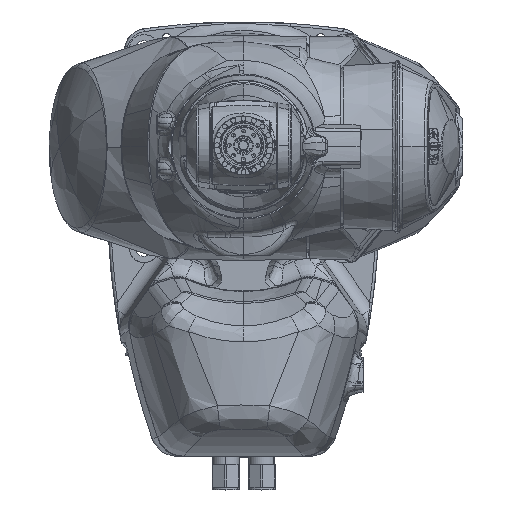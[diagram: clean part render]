
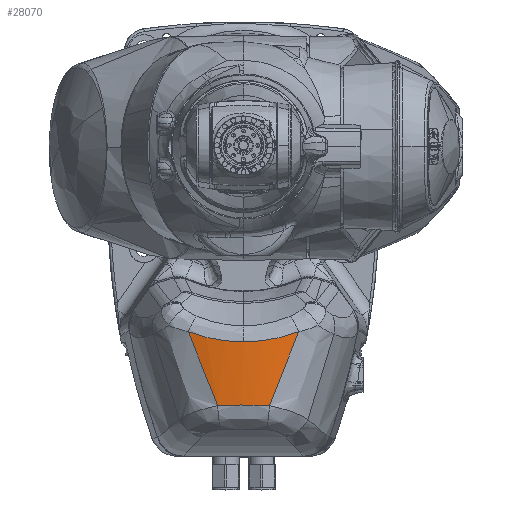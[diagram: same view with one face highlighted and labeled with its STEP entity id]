
A CAD part, top view. The second image highlights one B-rep face of the part: STEP entity #28070.
In plain terms, the highlighted cylindrical face has radius 250 mm (diameter 500 mm), a partial arc.
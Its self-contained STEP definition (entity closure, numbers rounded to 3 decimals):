
#24921=CARTESIAN_POINT('Vertex',(-28.589,-284.431,333.36)) ;
#24925=CARTESIAN_POINT('Control Point',(-60.947,-202.716,327.457)) ;
#24926=CARTESIAN_POINT('Control Point',(-55.703,-219.424,328.775)) ;
#24927=CARTESIAN_POINT('Control Point',(-49.779,-235.963,330.113)) ;
#24928=CARTESIAN_POINT('Control Point',(-43.238,-252.316,331.382)) ;
#24929=CARTESIAN_POINT('Control Point',(-36.152,-268.472,332.489)) ;
#24930=CARTESIAN_POINT('Control Point',(-28.589,-284.431,333.36)) ;
#24931=CARTESIAN_POINT('Vertex',(-60.947,-202.716,327.457)) ;
#25187=CARTESIAN_POINT('Vertex',(0.,-214.017,335.)) ;
#25191=CARTESIAN_POINT('Control Point',(0.,-214.017,335.)) ;
#25192=CARTESIAN_POINT('Control Point',(-12.663,-214.017,335.)) ;
#25193=CARTESIAN_POINT('Control Point',(-25.326,-212.832,334.198)) ;
#25194=CARTESIAN_POINT('Control Point',(-37.719,-210.461,332.593)) ;
#25195=CARTESIAN_POINT('Control Point',(-49.625,-207.041,330.303)) ;
#25196=CARTESIAN_POINT('Control Point',(-60.947,-202.716,327.457)) ;
#25270=CARTESIAN_POINT('Vertex',(60.947,-202.716,327.457)) ;
#25274=CARTESIAN_POINT('Control Point',(60.947,-202.716,327.457)) ;
#25275=CARTESIAN_POINT('Control Point',(49.626,-207.041,330.303)) ;
#25276=CARTESIAN_POINT('Control Point',(37.721,-210.46,332.593)) ;
#25277=CARTESIAN_POINT('Control Point',(25.324,-212.832,334.198)) ;
#25278=CARTESIAN_POINT('Control Point',(12.662,-214.017,335.)) ;
#25279=CARTESIAN_POINT('Control Point',(0.,-214.017,335.)) ;
#26214=CARTESIAN_POINT('Control Point',(28.589,-284.431,333.36)) ;
#26215=CARTESIAN_POINT('Control Point',(36.152,-268.471,332.489)) ;
#26216=CARTESIAN_POINT('Control Point',(43.239,-252.313,331.382)) ;
#26217=CARTESIAN_POINT('Control Point',(49.779,-235.964,330.114)) ;
#26218=CARTESIAN_POINT('Control Point',(55.702,-219.425,328.775)) ;
#26219=CARTESIAN_POINT('Control Point',(60.947,-202.716,327.457)) ;
#26220=CARTESIAN_POINT('Vertex',(28.589,-284.431,333.36)) ;
#28051=CARTESIAN_POINT('Axis2P3D Location',(0.,-238.875,85.)) ;
#28057=CARTESIAN_POINT('Control Point',(-28.589,-284.431,333.36)) ;
#28058=CARTESIAN_POINT('Control Point',(-14.371,-283.667,334.997)) ;
#28059=CARTESIAN_POINT('Control Point',(0.,-283.39,335.551)) ;
#28060=CARTESIAN_POINT('Control Point',(14.371,-283.667,334.997)) ;
#28061=CARTESIAN_POINT('Control Point',(28.589,-284.431,333.36)) ;
#28052=DIRECTION('Axis2P3D Direction',(0.,1.,0.)) ;
#28053=DIRECTION('Axis2P3D XDirection',(-1.,0.,0.)) ;
#28054=AXIS2_PLACEMENT_3D('Cylinder Axis2P3D',#28051,#28052,#28053) ;
#28064=ORIENTED_EDGE('',*,*,#24933,.T.) ;
#28065=ORIENTED_EDGE('',*,*,#28062,.F.) ;
#28066=ORIENTED_EDGE('',*,*,#26222,.F.) ;
#28067=ORIENTED_EDGE('',*,*,#25280,.T.) ;
#28068=ORIENTED_EDGE('',*,*,#25197,.T.) ;
#28070=ADVANCED_FACE('Base',(#28069),#28055,.T.) ;
#24924=B_SPLINE_CURVE_WITH_KNOTS('',5,(#24925,#24926,#24927,#24928,#24929,#24930),.UNSPECIFIED.,.F.,.U.,(6,6),(83.184,173.496),.UNSPECIFIED.) ;
#25190=B_SPLINE_CURVE_WITH_KNOTS('',5,(#25191,#25192,#25193,#25194,#25195,#25196),.UNSPECIFIED.,.F.,.U.,(6,6),(0.,58.418),.UNSPECIFIED.) ;
#25273=B_SPLINE_CURVE_WITH_KNOTS('',5,(#25274,#25275,#25276,#25277,#25278,#25279),.UNSPECIFIED.,.F.,.U.,(6,6),(69.175,127.593),.UNSPECIFIED.) ;
#26213=B_SPLINE_CURVE_WITH_KNOTS('',5,(#26214,#26215,#26216,#26217,#26218,#26219),.UNSPECIFIED.,.F.,.U.,(6,6),(104.683,194.995),.UNSPECIFIED.) ;
#28056=B_SPLINE_CURVE_WITH_KNOTS('',4,(#28057,#28058,#28059,#28060,#28061),.UNSPECIFIED.,.F.,.U.,(5,5),(0.,81.152),.UNSPECIFIED.) ;
#28055=CYLINDRICAL_SURFACE('generated cylinder',#28054,250.) ;
#24933=EDGE_CURVE('',#24932,#24922,#24924,.T.) ;
#25197=EDGE_CURVE('',#25188,#24932,#25190,.T.) ;
#25280=EDGE_CURVE('',#25271,#25188,#25273,.T.) ;
#26222=EDGE_CURVE('',#25271,#26221,#26213,.F.) ;
#28062=EDGE_CURVE('',#26221,#24922,#28056,.F.) ;
#28063=EDGE_LOOP('',(#28064,#28065,#28066,#28067,#28068)) ;
#28069=FACE_OUTER_BOUND('',#28063,.T.) ;
#24922=VERTEX_POINT('',#24921) ;
#24932=VERTEX_POINT('',#24931) ;
#25188=VERTEX_POINT('',#25187) ;
#25271=VERTEX_POINT('',#25270) ;
#26221=VERTEX_POINT('',#26220) ;
